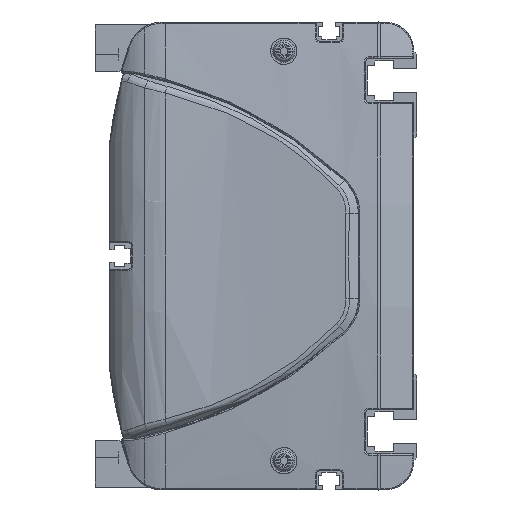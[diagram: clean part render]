
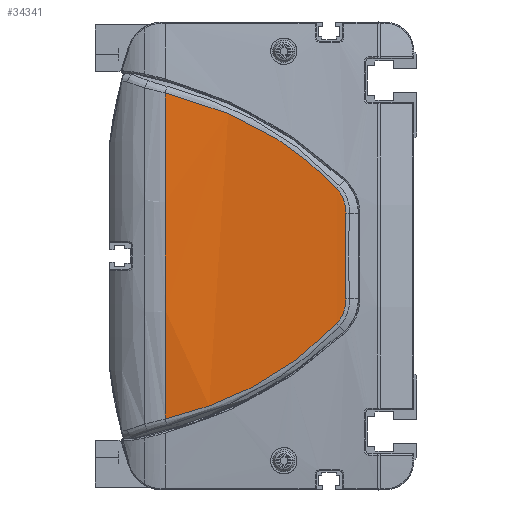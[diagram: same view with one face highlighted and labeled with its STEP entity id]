
A CAD part, left-side view. The second image highlights one B-rep face of the part: STEP entity #34341.
In plain terms, the highlighted cylindrical face has radius 600 mm (diameter 1200 mm), a partial arc.
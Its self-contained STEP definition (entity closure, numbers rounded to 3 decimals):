
#11514=CARTESIAN_POINT('',(-12.406,86.,
55.736));
#11515=CARTESIAN_POINT('',(-12.529,80.495,
54.41));
#11516=CARTESIAN_POINT('',(-12.828,69.636,
51.114));
#11517=CARTESIAN_POINT('',(-13.389,54.079,
44.179));
#11518=CARTESIAN_POINT('',(-14.01,39.709,
34.979));
#11519=CARTESIAN_POINT('',(-14.395,31.353,
27.243));
#11520=CARTESIAN_POINT('',(-14.555,27.451,
23.113));
#11522=CARTESIAN_POINT('',(-14.555,27.451,
23.113));
#11523=CARTESIAN_POINT('',(-14.641,25.336,
20.875));
#11524=CARTESIAN_POINT('',(-14.745,24.202,
17.745));
#11525=CARTESIAN_POINT('',(-14.821,24.351,
14.67));
#11527=CARTESIAN_POINT('',(-14.821,24.351,
14.67));
#11528=CARTESIAN_POINT('',(-14.9,24.51,
11.413));
#11529=CARTESIAN_POINT('',(-15.007,24.721,
4.895));
#11530=CARTESIAN_POINT('',(-15.007,24.721,
-4.895));
#11531=CARTESIAN_POINT('',(-14.9,24.51,
-11.413));
#11532=CARTESIAN_POINT('',(-14.821,24.351,
-14.67));
#11534=CARTESIAN_POINT('',(-14.821,24.351,
-14.67));
#11535=CARTESIAN_POINT('',(-14.745,24.202,
-17.745));
#11536=CARTESIAN_POINT('',(-14.641,25.337,
-20.876));
#11537=CARTESIAN_POINT('',(-14.555,27.451,
-23.113));
#11539=CARTESIAN_POINT('',(-14.555,27.451,
-23.113));
#11540=CARTESIAN_POINT('',(-14.395,31.353,
-27.243));
#11541=CARTESIAN_POINT('',(-14.01,39.709,
-34.979));
#11542=CARTESIAN_POINT('',(-13.389,54.079,
-44.179));
#11543=CARTESIAN_POINT('',(-12.828,69.636,
-51.114));
#11544=CARTESIAN_POINT('',(-12.529,80.495,
-54.41));
#11545=CARTESIAN_POINT('',(-12.406,86.,
-55.736));
#11547=CARTESIAN_POINT('',(585.,86.,0.));
#11548=DIRECTION('',(0.,1.,0.));
#11549=DIRECTION('',(-0.996,0.,-0.093));
#11550=AXIS2_PLACEMENT_3D('',#11547,#11548,#11549);
#11563=CARTESIAN_POINT('',(-12.406,86.,
55.736));
#14797=VERTEX_POINT('',#11563);
#14798=CARTESIAN_POINT('',(-12.406,86.,
-55.736));
#14799=VERTEX_POINT('',#14798);
#14849=VERTEX_POINT('',#11520);
#14850=VERTEX_POINT('',#11525);
#14851=VERTEX_POINT('',#11532);
#14852=VERTEX_POINT('',#11537);
#34323=CARTESIAN_POINT('',(585.,87.45,0.));
#34324=DIRECTION('',(0.,-1.,0.));
#34325=DIRECTION('',(0.,0.,-1.));
#34326=AXIS2_PLACEMENT_3D('',#34323,#34324,#34325);
#34327=CYLINDRICAL_SURFACE('',#34326,600.);
#34329=ORIENTED_EDGE('',*,*,#34328,.T.);
#34331=ORIENTED_EDGE('',*,*,#34330,.T.);
#34332=ORIENTED_EDGE('',*,*,#34313,.T.);
#34334=ORIENTED_EDGE('',*,*,#34333,.T.);
#34336=ORIENTED_EDGE('',*,*,#34335,.T.);
#34338=ORIENTED_EDGE('',*,*,#34337,.T.);
#34339=EDGE_LOOP('',(#34329,#34331,#34332,#34334,#34336,#34338));
#34340=FACE_OUTER_BOUND('',#34339,.F.);
#34341=ADVANCED_FACE('',(#34340),#34327,.T.);
#11521=B_SPLINE_CURVE_WITH_KNOTS('',3,(#11514,#11515,#11516,#11517,#11518,
#11519,#11520),.UNSPECIFIED.,.F.,.F.,(4,1,1,1,4),(0.,0.25,0.5,0.75,
1.),.UNSPECIFIED.);
#11526=B_SPLINE_CURVE_WITH_KNOTS('',3,(#11522,#11523,#11524,#11525),
.UNSPECIFIED.,.F.,.F.,(4,4),(0.,1.),.UNSPECIFIED.);
#11533=B_SPLINE_CURVE_WITH_KNOTS('',3,(#11527,#11528,#11529,#11530,#11531,
#11532),.UNSPECIFIED.,.F.,.F.,(4,1,1,4),(0.,0.333,
0.667,1.),.UNSPECIFIED.);
#11538=B_SPLINE_CURVE_WITH_KNOTS('',3,(#11534,#11535,#11536,#11537),
.UNSPECIFIED.,.F.,.F.,(4,4),(0.,1.),.UNSPECIFIED.);
#11546=B_SPLINE_CURVE_WITH_KNOTS('',3,(#11539,#11540,#11541,#11542,#11543,
#11544,#11545),.UNSPECIFIED.,.F.,.F.,(4,1,1,1,4),(0.,0.25,0.5,0.75,
1.),.UNSPECIFIED.);
#11551=CIRCLE('',#11550,600.);
#34313=EDGE_CURVE('',#14850,#14851,#11533,.T.);
#34328=EDGE_CURVE('',#14797,#14849,#11521,.T.);
#34330=EDGE_CURVE('',#14849,#14850,#11526,.T.);
#34333=EDGE_CURVE('',#14851,#14852,#11538,.T.);
#34335=EDGE_CURVE('',#14852,#14799,#11546,.T.);
#34337=EDGE_CURVE('',#14799,#14797,#11551,.T.);
